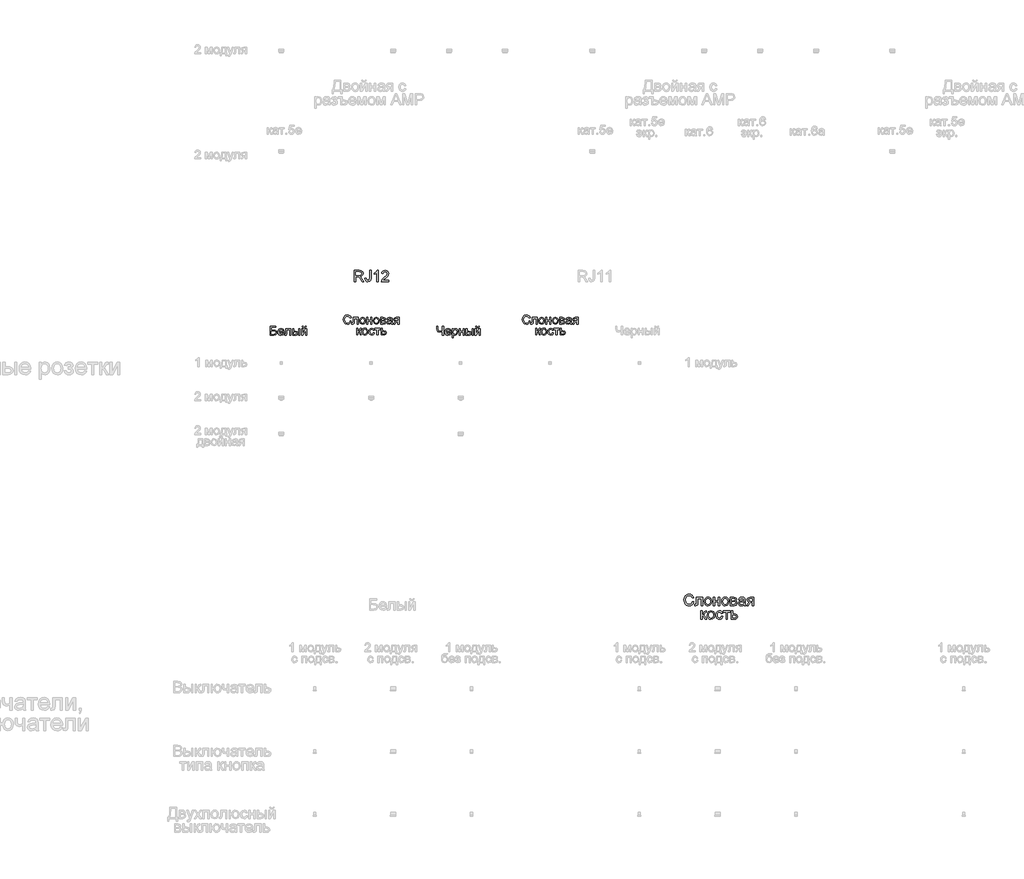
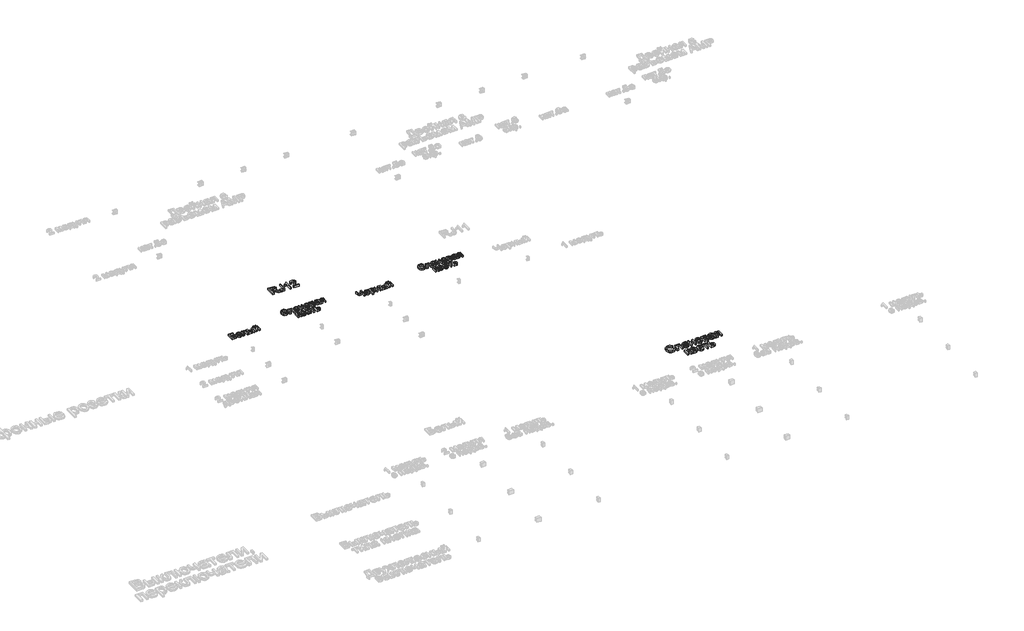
# One storey, part 22 of 47: 6 proxies.
"""IFC4 building model written with IfcOpenShell, lengths in millimetres."""

from ifc_helpers import new_model, si_unit, origin, origin_with_axes, place, context, project, spatial, polyline, outline, extrude, element, save

model = new_model("IFC4")

# Units and contexts
model_context = context("Model", 3, world=origin())
ifc_project = project(units=[si_unit("LENGTHUNIT", "METRE", prefix="MILLI")], contexts=[model_context])

# Site, building, storey
site = spatial("IfcSite", under=ifc_project)
building = spatial("IfcBuilding", under=site)
storey = spatial("IfcBuildingStorey", under=building, Name="Этаж 01", Elevation=0.0)

# Proxies
placement = place(None, origin())
element("IfcBuildingElementProxy", 1, Name="100 мм Arial", ObjectType="100 мм Arial", at=placement, inside=storey, context=model_context, shape_type="SweptSolid", body=[
    extrude(outline(polyline([(3679.840867, -27851.3823915), (3692.3979057, -27854.619753), (3686.6037643, -27869.2522594), (3677.5109477, -27879.942297), (3665.5670456, -27886.4813995), (3651.2196477, -27888.6611003), (3636.6545864, -27887.0117627), (3625.0877634, -27882.0637499), (3616.2218073, -27873.9887401), (3609.7593469, -27862.9584116), (3604.4986344, -27836.103026), (3605.9854908, -27821.4551912), (3610.4460599, -27808.8061819), (3617.64735, -27798.5576027), (3627.356369, -27791.1110579), (3638.8710754, -27786.5769124), (3651.4894279, -27785.0655305), (3665.2574115, -27787.0214364), (3676.6402936, -27792.8891543), (3685.2824548, -27802.3069333), (3690.8282759, -27814.913023), (3678.2712371, -27817.9051299), (3667.9705413, -27802.4663489), (3650.9989185, -27797.6225693), (3631.35402, -27802.9936464), (3620.2562465, -27817.4146206), (3617.0556731, -27836.0785005), (3620.8448577, -27857.7099618), (3632.641607, -27871.5300621), (3649.968849, -27876.1040616), (3660.4504201, -27874.5466945), (3669.1845518, -27869.8745931), (3675.7788366, -27862.1368085), (3679.840867, -27851.3823915)])), origin_with_axes(), (0.0, 0.0, 1.0), 20.0),
    extrude(outline(polyline([(3714.3727236, -27813.3188677), (3770.879398, -27813.3188677), (3770.879398, -27887.0178941), (3758.3223593, -27887.0178941), (3758.3223593, -27825.8759065), (3726.9297624, -27825.8759065), (3726.9297624, -27861.0699507), (3726.0836338, -27877.3058094), (3721.4360579, -27884.1606773), (3710.448649, -27887.0914705), (3700.246055, -27886.4538084), (3700.246055, -27874.5344317), (3705.8623868, -27874.5344317), (3711.5400322, -27873.7618795), (3713.8086379, -27871.3093329), (3714.3727236, -27860.3587122), (3714.3727236, -27813.3188677)])), origin_with_axes(), (0.0, 0.0, 1.0), 20.0),
    extrude(outline(polyline([(3786.5756965, -27850.2051691), (3789.2918919, -27832.4180746), (3797.4404781, -27819.9162182), (3807.508182, -27813.7909829), (3819.5624487, -27811.7492379), (3832.7540839, -27814.235507), (3843.2908374, -27821.6943145), (3850.1978219, -27833.537049), (3852.50015, -27849.1750995), (3848.4289226, -27871.5177994), (3836.5708596, -27884.1606773), (3819.5624487, -27888.6611003), (3806.211398, -27886.1840282), (3795.6869073, -27878.7528119), (3788.8534992, -27866.661757), (3786.5756965, -27850.2051691)]), holes=[polyline([(3799.1327353, -27850.1806436), (3800.5858692, -27861.5451316), (3804.9452708, -27869.6416012), (3811.505833, -27874.4884465), (3819.5624487, -27876.1040616), (3827.5822762, -27874.4792494), (3834.1305757, -27869.604813), (3838.4899774, -27861.4010445), (3839.9431113, -27849.7882362), (3838.4807803, -27838.754842), (3834.0937875, -27830.768737), (3827.536291, -27825.9218917), (3819.5624487, -27824.3062766), (3811.505833, -27825.9157604), (3804.9452708, -27830.7442116), (3800.5858692, -27838.822287), (3799.1327353, -27850.1806436)])]), origin_with_axes(), (0.0, 0.0, 1.0), 20.0),
    extrude(outline(polyline([(3866.6268187, -27813.3188677), (3879.1838574, -27813.3188677), (3879.1838574, -27841.572205), (3912.1460842, -27841.572205), (3912.1460842, -27813.3188677), (3924.703123, -27813.3188677), (3924.703123, -27887.0914705), (3912.1460842, -27887.0914705), (3912.1460842, -27854.1292437), (3879.1838574, -27854.1292437), (3879.1838574, -27887.0914705), (3866.6268187, -27887.0914705), (3866.6268187, -27813.3188677)])), origin_with_axes(), (0.0, 0.0, 1.0), 20.0),
    extrude(outline(polyline([(3940.3994214, -27850.2051691), (3943.1156168, -27832.4180746), (3951.264203, -27819.9162182), (3961.3319069, -27813.7909829), (3973.3861737, -27811.7492379), (3986.5778089, -27814.235507), (3997.1145623, -27821.6943145), (4004.0215468, -27833.537049), (4006.323875, -27849.1750995), (4002.2526475, -27871.5177994), (3990.3945846, -27884.1606773), (3973.3861737, -27888.6611003), (3960.0351229, -27886.1840282), (3949.5106322, -27878.7528119), (3942.6772241, -27866.661757), (3940.3994214, -27850.2051691)]), holes=[polyline([(3952.9564602, -27850.1806436), (3954.4095941, -27861.5451316), (3958.7689957, -27869.6416012), (3965.329558, -27874.4884465), (3973.3861737, -27876.1040616), (3981.4060011, -27874.4792494), (3987.9543007, -27869.604813), (3992.3137023, -27861.4010445), (3993.7668362, -27849.7882362), (3992.3045053, -27838.754842), (3987.9175125, -27830.768737), (3981.3600159, -27825.9218917), (3973.3861737, -27824.3062766), (3965.329558, -27825.9157604), (3958.7689957, -27830.7442116), (3954.4095941, -27838.822287), (3952.9564602, -27850.1806436)])]), origin_with_axes(), (0.0, 0.0, 1.0), 20.0),
    extrude(outline(polyline([(4020.4505436, -27813.3188677), (4048.1152696, -27813.3188677), (4063.2842705, -27814.9988622), (4071.8191328, -27821.1547542), (4075.3875882, -27831.8846457), (4073.2293471, -27840.603449), (4066.7300986, -27846.8206547), (4075.166859, -27853.6264717), (4078.5268479, -27865.4600092), (4076.3992637, -27875.0310724), (4071.3408862, -27881.7694443), (4063.3333215, -27885.7609639), (4052.3581753, -27887.0914705), (4020.4505436, -27887.0914705), (4020.4505436, -27813.3188677)]), holes=[polyline([(4033.0075823, -27841.572205), (4045.4174683, -27841.572205), (4055.6568505, -27840.9345428), (4060.6355202, -27838.3838943), (4062.8305494, -27833.7731067), (4058.9800512, -27827.6172146), (4045.8098758, -27825.8759065), (4033.0075823, -27825.8759065), (4033.0075823, -27841.572205)]), polyline([(4033.0075823, -27874.5344317), (4048.4095752, -27874.5344317), (4062.07026, -27872.2658261), (4065.9698091, -27864.4299396), (4063.8238308, -27858.3844121), (4058.2320245, -27854.8650077), (4047.1833019, -27854.1292437), (4033.0075823, -27854.1292437), (4033.0075823, -27874.5344317)])]), origin_with_axes(), (0.0, 0.0, 1.0), 20.0),
    extrude(outline(polyline([(4141.3120417, -27877.6736914), (4129.1351477, -27886.1840282), (4115.6829294, -27888.6611003), (4105.1890955, -27887.1711783), (4097.4482452, -27882.701412), (4092.6749763, -27875.9139892), (4091.0838866, -27867.4710974), (4093.4873823, -27857.5382835), (4099.8026899, -27850.3277964), (4108.5950696, -27846.2075181), (4119.4598512, -27844.3190572), (4141.2384653, -27840.0025751), (4141.3120417, -27837.2066719), (4137.853951, -27827.9360457), (4123.972537, -27824.3062766), (4111.2683454, -27826.7220351), (4105.2105553, -27835.2936856), (4092.6535165, -27833.7240557), (4098.0859073, -27821.4613225), (4109.0242653, -27814.2753609), (4125.5912178, -27811.7492379), (4140.8092697, -27813.9810553), (4149.4054456, -27819.5851244), (4153.2559438, -27828.1077239), (4153.8690805, -27839.0951328), (4153.8690805, -27854.7178549), (4154.5067426, -27876.5332572), (4157.0083402, -27887.0914705), (4144.4513014, -27887.0914705), (4141.3120417, -27877.6736914)]), holes=[polyline([(4141.3120417, -27852.5596139), (4121.0540065, -27856.4101121), (4110.2505386, -27858.4457258), (4105.3577081, -27861.7566638), (4103.6409254, -27866.5881806), (4107.381059, -27873.3817348), (4118.3562052, -27876.1040616), (4131.0603968, -27873.0996919), (4139.2519025, -27865.8278912), (4141.2384653, -27856.1158065), (4141.3120417, -27852.5596139)])]), origin_with_axes(), (0.0, 0.0, 1.0), 20.0),
    extrude(outline(polyline([(4227.6416833, -27813.3188677), (4227.6416833, -27887.0914705), (4215.0846445, -27887.0914705), (4215.0846445, -27858.8381333), (4208.2420394, -27858.8381333), (4198.9223622, -27860.4322886), (4190.1667707, -27871.1499174), (4180.1603804, -27887.0914705), (4165.6413043, -27887.0914705), (4178.247394, -27866.9315372), (4188.9404974, -27856.4836885), (4180.3565841, -27853.8533322), (4174.3233194, -27848.8562685), (4169.5653789, -27834.631498), (4171.1901911, -27826.035322), (4176.0646275, -27819.2295051), (4184.01701, -27814.7965271), (4194.8756602, -27813.3188677), (4227.6416833, -27813.3188677)]), holes=[polyline([(4215.0846445, -27825.8759065), (4198.5299547, -27825.8759065), (4185.1267873, -27828.7821743), (4182.1224177, -27835.5879912), (4186.5492644, -27843.6936578), (4202.2333001, -27846.2810945), (4215.0846445, -27846.2810945), (4215.0846445, -27825.8759065)])]), origin_with_axes(), (0.0, 0.0, 1.0), 20.0),
    extrude(outline(polyline([(3754.3982847, -27935.2936856), (3766.9553234, -27935.2936856), (3766.9553234, -27966.6862825), (3775.3675584, -27964.4299396), (3782.2592144, -27951.2842896), (3787.9859108, -27939.9412614), (3793.0381569, -27936.2501788), (3802.222944, -27935.2936856), (3804.6264397, -27935.2936856), (3804.6264397, -27947.9243007), (3801.2419254, -27947.8507243), (3795.1105588, -27949.1750995), (3790.7940767, -27957.4401817), (3785.7295679, -27966.3797142), (3778.6294454, -27970.7575099), (3786.551171, -27975.6442091), (3794.3257439, -27985.9387736), (3807.7656994, -28009.0662883), (3793.491878, -28009.0662883), (3780.3217026, -27986.4292829), (3773.6998267, -27976.8520883), (3766.9553234, -27974.5344317), (3766.9553234, -28009.0662883), (3754.3982847, -28009.0662883), (3754.3982847, -27935.2936856)])), origin_with_axes(), (0.0, 0.0, 1.0), 20.0),
    extrude(outline(polyline([(3812.474589, -27972.1799869), (3815.1907844, -27954.3928925), (3823.3393706, -27941.891036), (3833.4070745, -27935.7658008), (3845.4613412, -27933.7240557), (3858.6529764, -27936.2103249), (3869.1897299, -27943.6691323), (3876.0967143, -27955.5118669), (3878.3990425, -27971.1499174), (3874.3278151, -27993.4926172), (3862.4697521, -28006.1354951), (3845.4613412, -28010.6359182), (3832.1102905, -28008.1588461), (3821.5857997, -28000.7276298), (3814.7523917, -27988.6365749), (3812.474589, -27972.1799869)]), holes=[polyline([(3825.0316277, -27972.1554615), (3826.4847616, -27983.5199495), (3830.8441633, -27991.616419), (3837.4047255, -27996.4632643), (3845.4613412, -27998.0788794), (3853.4811687, -27996.4540673), (3860.0294682, -27991.5796308), (3864.3888698, -27983.3758623), (3865.8420037, -27971.763054), (3864.3796728, -27960.7296598), (3859.99268, -27952.7435549), (3853.4351834, -27947.8967096), (3845.4613412, -27946.2810945), (3837.4047255, -27947.8905782), (3830.8441633, -27952.7190294), (3826.4847616, -27960.7971049), (3825.0316277, -27972.1554615)])]), origin_with_axes(), (0.0, 0.0, 1.0), 20.0),
    extrude(outline(polyline([(3939.6146065, -27982.3825809), (3952.1716453, -27983.9522108), (3948.6706349, -27995.120495), (3942.0916786, -28003.5603211), (3933.0540442, -28008.8670189), (3922.1769999, -28010.6359182), (3908.8198178, -28008.1680431), (3898.3750348, -28000.764418), (3891.6335973, -27988.7500051), (3889.3864514, -27972.4497671), (3893.2246869, -27951.590858), (3904.9233344, -27938.1876906), (3922.0053217, -27933.7240557), (3932.6156515, -27935.2568974), (3941.0983972, -27939.8554223), (3947.1837785, -27947.2743759), (3950.6020154, -27957.2685034), (3938.0449767, -27958.8381333), (3932.2201784, -27949.4326169), (3922.1034235, -27946.2810945), (3913.9885598, -27947.8323302), (3907.5475593, -27952.4860375), (3903.3445075, -27960.4936022), (3901.9434902, -27972.1064106), (3903.3138506, -27983.8755687), (3907.4249319, -27991.9107246), (3913.7494366, -27996.5368407), (3921.760067, -27998.0788794), (3933.5936045, -27994.2283812), (3939.6146065, -27982.3825809)])), origin_with_axes(), (0.0, 0.0, 1.0), 20.0),
    extrude(outline(polyline([(3956.8805348, -27935.2936856), (4016.526469, -27935.2936856), (4016.526469, -27947.8507243), (3992.9820213, -27947.8507243), (3992.9820213, -28009.0662883), (3980.4249825, -28009.0662883), (3980.4249825, -27947.8507243), (3956.8805348, -27947.8507243), (3956.8805348, -27935.2936856)])), origin_with_axes(), (0.0, 0.0, 1.0), 20.0),
    extrude(outline(polyline([(4027.5138779, -27935.2936856), (4040.0709166, -27935.2936856), (4040.0709166, -27961.9773929), (4054.5409418, -27961.9773929), (4067.0857178, -27963.5500885), (4076.3686068, -27968.2681751), (4082.107566, -27975.751508), (4084.0205523, -27985.6199425), (4082.3926745, -27994.6054602), (4077.509041, -28002.186895), (4069.0446894, -28007.34644), (4056.6746574, -28009.0662883), (4027.5138779, -28009.0662883), (4027.5138779, -27935.2936856)]), holes=[polyline([(4040.0709166, -27996.5092496), (4051.7940896, -27996.5092496), (4066.938565, -27993.8727619), (4071.4635136, -27985.644468), (4068.1157874, -27977.9189461), (4053.290143, -27974.5344317), (4040.0709166, -27974.5344317), (4040.0709166, -27996.5092496)])]), origin_with_axes(), (0.0, 0.0, 1.0), 20.0),
])
element("IfcBuildingElementProxy", 2, Name="80 мм Arial", ObjectType="80 мм Arial", at=placement, inside=storey, context=model_context, shape_type="SweptSolid", body=[
    extrude(outline(polyline([(-92.4738634, -25390.5375901), (-42.2457083, -25390.5375901), (-42.2457083, -25400.5832211), (-82.4282324, -25400.5832211), (-82.4282324, -25424.4415948), (-63.6122946, -25424.4415948), (-47.0330794, -25426.4821136), (-37.1640317, -25434.1929202), (-33.4557812, -25447.3778109), (-36.0947214, -25458.8262986), (-43.9723012, -25467.527934), (-61.8072203, -25470.9026382), (-92.4738634, -25470.9026382), (-92.4738634, -25390.5375901)]), holes=[polyline([(-82.4282324, -25460.8570072), (-60.9046831, -25460.8570072), (-47.857135, -25457.5411642), (-43.5014122, -25447.593635), (-45.9931996, -25439.7258654), (-52.9290015, -25435.5271056), (-68.0661193, -25434.4872258), (-82.4282324, -25434.4872258), (-82.4282324, -25460.8570072)])]), origin_with_axes(), (0.0, 0.0, 1.0), 20.0),
    extrude(outline(polyline([(20.4217633, -25453.3227839), (30.2711906, -25454.5784878), (21.0594254, -25467.5475544), (3.9014091, -25472.1583421), (-7.88553, -25470.1693268), (-16.9550474, -25464.2022808), (-22.7381524, -25454.6447066), (-24.6658541, -25441.8841064), (-22.718532, -25428.6943106), (-16.8765659, -25418.8301681), (-7.9296758, -25412.6791811), (3.3324183, -25410.6288521), (14.2437983, -25412.674276), (22.9626016, -25418.8105477), (28.6794878, -25428.6550699), (30.5851165, -25441.8252453), (30.5262554, -25444.5328568), (-14.620223, -25444.5328568), (-8.8420232, -25457.5804049), (4.0976129, -25462.1127111), (13.9470402, -25460.0133312), (20.4217633, -25453.3227839)]), holes=[polyline([(-14.620223, -25434.4872258), (20.5394855, -25434.4872258), (16.517309, -25425.3833727), (3.2931776, -25420.6744831), (-9.0774676, -25424.4317846), (-14.620223, -25434.4872258)])]), origin_with_axes(), (0.0, 0.0, 1.0), 20.0),
    extrude(outline(polyline([(45.6535631, -25411.884556), (90.8589026, -25411.884556), (90.8589026, -25470.8437771), (80.8132716, -25470.8437771), (80.8132716, -25421.930187), (55.6991941, -25421.930187), (55.6991941, -25450.0854224), (55.0222912, -25463.0741094), (51.3042305, -25468.5580036), (42.5143034, -25470.9026382), (34.3522282, -25470.3925085), (34.3522282, -25460.8570072), (38.8452936, -25460.8570072), (43.38741, -25460.2389655), (45.2022945, -25458.2769281), (45.6535631, -25449.5164316), (45.6535631, -25411.884556)])), origin_with_axes(), (0.0, 0.0, 1.0), 20.0),
    extrude(outline(polyline([(105.9273491, -25411.884556), (115.9729802, -25411.884556), (115.9729802, -25433.2315219), (128.3926763, -25433.2315219), (147.0810817, -25438.2641476), (152.0033428, -25444.2508139), (153.6440965, -25452.1455616), (148.1405818, -25465.3991236), (140.9914084, -25469.5267596), (130.5509174, -25470.9026382), (105.9273491, -25470.9026382), (105.9273491, -25411.884556)]), holes=[polyline([(115.9729802, -25460.8570072), (126.2932964, -25460.8570072), (139.6155297, -25458.7478171), (143.5984654, -25452.1651819), (140.6455993, -25445.9847644), (127.6078614, -25443.2771529), (115.9729802, -25443.2771529), (115.9729802, -25460.8570072)])]), origin_with_axes(), (0.0, 0.0, 1.0), 20.0),
    extrude(outline(polyline([(161.1783197, -25411.884556), (171.2239507, -25411.884556), (171.2239507, -25470.9026382), (161.1783197, -25470.9026382), (161.1783197, -25411.884556)])), origin_with_axes(), (0.0, 0.0, 1.0), 20.0),
    extrude(outline(polyline([(186.2923973, -25411.884556), (196.3380283, -25411.884556), (196.3380283, -25456.8936918), (221.0204576, -25411.884556), (234.0091446, -25411.884556), (234.0091446, -25470.9026382), (223.9635136, -25470.9026382), (223.9635136, -25426.1681876), (199.4380472, -25470.9026382), (186.2923973, -25470.9026382), (186.2923973, -25411.884556)])), origin_with_axes(), (0.0, 0.0, 1.0), 20.0),
    extrude(outline(polyline([(218.9406981, -25390.5375901), (226.4749213, -25390.5375901), (221.5992586, -25401.7113926), (210.7786229, -25405.6060366), (199.0652601, -25401.7408231), (193.8266205, -25390.5375901), (201.3608438, -25390.5375901), (204.1861775, -25396.1980677), (209.8760857, -25398.0718134), (216.1153643, -25396.2569288), (218.9406981, -25390.5375901)])), origin_with_axes(), (0.0, 0.0, 1.0), 20.0),
])
element("IfcBuildingElementProxy", 3, Name="80 мм Arial", ObjectType="80 мм Arial", at=placement, inside=storey, context=model_context, shape_type="SweptSolid", body=[
    extrude(outline(polyline([(619.9006513, -25342.335375), (629.9462823, -25344.9252643), (625.3109692, -25356.6312694), (618.0367159, -25365.1832995), (608.4815942, -25370.4145814), (597.0036759, -25372.1583421), (576.0981684, -25366.8804617), (563.8354352, -25351.5961911), (559.6268652, -25330.1118826), (564.3848057, -25308.2744074), (577.9130529, -25294.1183082), (597.2195, -25289.2818862), (608.233887, -25290.846611), (617.3401926, -25295.5407852), (624.2539216, -25303.0750085), (628.6905784, -25313.1598803), (618.6449474, -25315.5535658), (610.4043907, -25303.2025409), (596.8270926, -25299.3275172), (581.1111737, -25303.6243789), (572.2329549, -25315.1611583), (569.6724962, -25330.0922622), (572.7038439, -25347.3974313), (582.1412433, -25358.4535115), (596.0030369, -25362.1127111), (611.3755992, -25357.1291363), (619.9006513, -25342.335375)])), origin_with_axes(), (0.0, 0.0, 1.0), 20.0),
    extrude(outline(polyline([(647.5261366, -25311.884556), (692.7314762, -25311.884556), (692.7314762, -25370.8437771), (682.6858451, -25370.8437771), (682.6858451, -25321.930187), (657.5717676, -25321.930187), (657.5717676, -25350.0854224), (656.8948647, -25363.0741094), (653.176804, -25368.5580036), (644.3868769, -25370.9026382), (636.2248017, -25370.3925085), (636.2248017, -25360.8570072), (640.7178671, -25360.8570072), (645.2599835, -25360.2389655), (647.074868, -25358.2769281), (647.5261366, -25349.5164316), (647.5261366, -25311.884556)])), origin_with_axes(), (0.0, 0.0, 1.0), 20.0),
    extrude(outline(polyline([(705.2885149, -25341.3935971), (707.4614713, -25327.1639215), (713.9803402, -25317.1624364), (722.0345034, -25312.2622482), (731.6779167, -25310.6288521), (742.2312249, -25312.6178674), (750.6606277, -25318.5849134), (756.1862152, -25328.0591011), (758.0280778, -25340.5695414), (754.7710958, -25358.4437013), (745.2846454, -25368.5580036), (731.6779167, -25372.1583421), (720.9970761, -25370.1766844), (712.5774835, -25364.2317114), (707.1107571, -25354.5588674), (705.2885149, -25341.3935971)]), holes=[polyline([(715.3341459, -25341.3739767), (719.9841744, -25356.9427428), (731.6779167, -25362.1127111), (743.3324183, -25356.9133122), (747.9824467, -25341.0600508), (743.3029878, -25325.8444514), (731.6779167, -25320.6744831), (719.9841744, -25325.8248311), (715.3341459, -25341.3739767)])]), origin_with_axes(), (0.0, 0.0, 1.0), 20.0),
    extrude(outline(polyline([(769.3294127, -25311.884556), (779.3750437, -25311.884556), (779.3750437, -25334.4872258), (805.7448251, -25334.4872258), (805.7448251, -25311.884556), (815.7904561, -25311.884556), (815.7904561, -25370.9026382), (805.7448251, -25370.9026382), (805.7448251, -25344.5328568), (779.3750437, -25344.5328568), (779.3750437, -25370.9026382), (769.3294127, -25370.9026382), (769.3294127, -25311.884556)])), origin_with_axes(), (0.0, 0.0, 1.0), 20.0),
    extrude(outline(polyline([(828.3474949, -25341.3935971), (830.5204512, -25327.1639215), (837.0393201, -25317.1624364), (845.0934833, -25312.2622482), (854.7368967, -25310.6288521), (865.2902048, -25312.6178674), (873.7196076, -25318.5849134), (879.2451952, -25328.0591011), (881.0870577, -25340.5695414), (877.8300758, -25358.4437013), (868.3436254, -25368.5580036), (854.7368967, -25372.1583421), (844.0560561, -25370.1766844), (835.6364635, -25364.2317114), (830.169737, -25354.5588674), (828.3474949, -25341.3935971)]), holes=[polyline([(838.3931259, -25341.3739767), (843.0431543, -25356.9427428), (854.7368967, -25362.1127111), (866.3913983, -25356.9133122), (871.0414267, -25341.0600508), (866.3619677, -25325.8444514), (854.7368967, -25320.6744831), (843.0431543, -25325.8248311), (838.3931259, -25341.3739767)])]), origin_with_axes(), (0.0, 0.0, 1.0), 20.0),
    extrude(outline(polyline([(892.3883926, -25311.884556), (914.5201734, -25311.884556), (926.6553742, -25313.2285516), (933.483264, -25318.1532652), (936.3380283, -25326.7371784), (934.6114354, -25333.7122211), (929.4120366, -25338.6859856), (936.1614449, -25344.1306392), (938.849436, -25353.5974692), (933.1006667, -25366.6450173), (917.914498, -25370.9026382), (892.3883926, -25370.9026382), (892.3883926, -25311.884556)]), holes=[polyline([(902.4340236, -25360.8570072), (914.7556179, -25360.8570072), (925.6841657, -25359.0421227), (928.803805, -25352.7734135), (927.0870224, -25347.9369915), (922.6135773, -25345.121468), (913.7745992, -25344.5328568), (902.4340236, -25344.5328568), (902.4340236, -25360.8570072)]), polyline([(902.4340236, -25334.4872258), (912.3619324, -25334.4872258), (920.5534381, -25333.9770961), (924.5363739, -25331.9365773), (926.2923973, -25328.2479471), (923.2119987, -25323.3232335), (912.6758583, -25321.930187), (902.4340236, -25321.930187), (902.4340236, -25334.4872258)])]), origin_with_axes(), (0.0, 0.0, 1.0), 20.0),
    extrude(outline(polyline([(989.0775911, -25363.368415), (979.3360759, -25370.1766844), (968.5743012, -25372.1583421), (953.9865539, -25367.3905914), (948.895067, -25355.2063398), (950.8178636, -25347.2600887), (955.8701097, -25341.491699), (962.9040134, -25338.1954763), (971.5958387, -25336.6847076), (989.01873, -25333.2315219), (989.0775911, -25330.9947994), (986.3111185, -25323.5782984), (975.2059873, -25320.6744831), (965.0426341, -25322.6070899), (960.1964019, -25329.4644103), (950.1507709, -25328.2087064), (954.4966836, -25318.3985199), (963.24737, -25312.6497506), (976.500932, -25310.6288521), (988.6753735, -25312.4143061), (995.5523142, -25316.8975613), (998.6327128, -25323.715641), (999.1232221, -25332.5055681), (999.1232221, -25345.0037458), (999.6333518, -25362.4560676), (1001.6346299, -25370.9026382), (991.5889989, -25370.9026382), (989.0775911, -25363.368415)]), holes=[polyline([(989.0775911, -25343.2771529), (972.8711629, -25346.3575515), (964.2283886, -25347.9860425), (960.3141242, -25350.6347928), (958.9406981, -25354.5000063), (961.932805, -25359.9348497), (970.7129219, -25362.1127111), (980.8762752, -25359.7092154), (987.4294798, -25353.8917748), (989.01873, -25346.122107), (989.0775911, -25343.2771529)])]), origin_with_axes(), (0.0, 0.0, 1.0), 20.0),
    extrude(outline(polyline([(1058.1413043, -25311.884556), (1058.1413043, -25370.9026382), (1048.0956733, -25370.9026382), (1048.0956733, -25348.2999684), (1042.6215892, -25348.2999684), (1035.1658475, -25349.5752927), (1028.1613743, -25358.1493957), (1020.1562621, -25370.9026382), (1008.5410012, -25370.9026382), (1018.625873, -25354.7746915), (1027.1803556, -25346.4164126), (1015.4866133, -25340.3144766), (1011.6802609, -25328.9346602), (1016.8796598, -25316.6130659), (1031.9284859, -25311.884556), (1058.1413043, -25311.884556)]), holes=[polyline([(1048.0956733, -25321.930187), (1034.8519215, -25321.930187), (1024.1293876, -25324.2552012), (1021.7258919, -25329.6998548), (1025.2673692, -25336.1843881), (1037.8145978, -25338.2543374), (1048.0956733, -25338.2543374), (1048.0956733, -25321.930187)])]), origin_with_axes(), (0.0, 0.0, 1.0), 20.0),
    extrude(outline(polyline([(679.5465855, -25409.4644103), (689.5922165, -25409.4644103), (689.5922165, -25434.5784878), (696.3220044, -25432.7734135), (701.8353293, -25422.2568935), (706.4166864, -25413.182471), (710.4584832, -25410.2296048), (717.806313, -25409.4644103), (719.7291095, -25409.4644103), (719.7291095, -25419.5689024), (717.021498, -25419.5100413), (712.1164048, -25420.5695414), (708.6632191, -25427.1816072), (704.6116121, -25434.3332332), (698.9315141, -25437.8354697), (705.2688946, -25441.7448291), (711.4885528, -25449.9804807), (722.2405173, -25468.4824925), (710.8214601, -25468.4824925), (700.2853198, -25450.3728881), (694.9878191, -25442.7111325), (689.5922165, -25440.8570072), (689.5922165, -25468.4824925), (679.5465855, -25468.4824925), (679.5465855, -25409.4644103)])), origin_with_axes(), (0.0, 0.0, 1.0), 20.0),
    extrude(outline(polyline([(726.0076289, -25438.9734514), (728.1805852, -25424.7437758), (734.6994542, -25414.7422906), (742.7536173, -25409.8421025), (752.3970307, -25408.2087064), (762.9503389, -25410.1977217), (771.3797416, -25416.1647677), (776.9053292, -25425.6389553), (778.7471917, -25438.1493957), (775.4902098, -25456.0235556), (766.0037594, -25466.1378579), (752.3970307, -25469.7381964), (741.7161901, -25467.7565387), (733.2965975, -25461.8115656), (727.8298711, -25452.1387217), (726.0076289, -25438.9734514)]), holes=[polyline([(736.0532599, -25438.953831), (740.7032883, -25454.522597), (752.3970307, -25459.6925654), (764.0515323, -25454.4931665), (768.7015607, -25438.639905), (764.0221017, -25423.4243057), (752.3970307, -25418.2543374), (740.7032883, -25423.4046854), (736.0532599, -25438.953831)])]), origin_with_axes(), (0.0, 0.0, 1.0), 20.0),
    extrude(outline(polyline([(827.7196429, -25447.1355266), (837.7652739, -25448.3912305), (834.9644657, -25457.3258579), (829.7013006, -25464.0777187), (813.7695577, -25469.7381964), (803.083812, -25467.7638963), (794.7279856, -25461.8409962), (789.3348356, -25452.2294659), (787.5371189, -25439.1892755), (790.6077073, -25422.5021482), (799.9666252, -25411.7796143), (813.6322151, -25408.2087064), (828.9066755, -25413.1137997), (836.5095701, -25427.0442646), (826.4639391, -25428.2999684), (821.8041004, -25420.7755554), (813.7106966, -25418.2543374), (802.0660051, -25423.2182918), (797.5827499, -25438.9145903), (801.9679033, -25454.7580415), (813.4360113, -25459.6925654), (822.9028413, -25456.6121668), (827.7196429, -25447.1355266)])), origin_with_axes(), (0.0, 0.0, 1.0), 20.0),
    extrude(outline(polyline([(841.5323856, -25409.4644103), (889.2491329, -25409.4644103), (889.2491329, -25419.5100413), (870.4135747, -25419.5100413), (870.4135747, -25468.4824925), (860.3679437, -25468.4824925), (860.3679437, -25419.5100413), (841.5323856, -25419.5100413), (841.5323856, -25409.4644103)])), origin_with_axes(), (0.0, 0.0, 1.0), 20.0),
    extrude(outline(polyline([(898.03906, -25409.4644103), (908.084691, -25409.4644103), (908.084691, -25430.8113762), (919.6607112, -25430.8113762), (937.1228432, -25435.8440019), (941.7140105, -25441.8306682), (943.2443996, -25449.7254158), (938.0351905, -25462.9789778), (931.2637093, -25467.1066138), (921.3676836, -25468.4824925), (898.03906, -25468.4824925), (898.03906, -25409.4644103)]), holes=[polyline([(908.084691, -25458.4368615), (917.4632294, -25458.4368615), (929.5788098, -25456.3276714), (933.1987686, -25449.7450362), (930.5205877, -25443.5646187), (918.6600721, -25440.8570072), (908.084691, -25440.8570072), (908.084691, -25458.4368615)])]), origin_with_axes(), (0.0, 0.0, 1.0), 20.0),
])
element("IfcBuildingElementProxy", 4, Name="80 мм Arial", ObjectType="80 мм Arial", at=placement, inside=storey, context=model_context, shape_type="SweptSolid", body=[
    extrude(outline(polyline([(1455.5237699, -25470.9026382), (1445.4781389, -25470.9026382), (1445.4781389, -25438.7252264), (1420.5995059, -25444.5328568), (1405.9136566, -25440.5597313), (1397.3984147, -25430.4748595), (1395.2499839, -25414.4744453), (1395.2499839, -25390.5375901), (1405.2956149, -25390.5375901), (1405.2956149, -25413.1206395), (1406.5022678, -25423.9829686), (1410.1222267, -25430.3571373), (1421.7178671, -25434.4872258), (1445.4781389, -25429.503651), (1445.4781389, -25390.5375901), (1455.5237699, -25390.5375901), (1455.5237699, -25470.9026382)])), origin_with_axes(), (0.0, 0.0, 1.0), 20.0),
    extrude(outline(polyline([(1513.168426, -25453.3227839), (1523.0178533, -25454.5784878), (1513.8060882, -25467.5475544), (1496.6480719, -25472.1583421), (1484.8611328, -25470.1693268), (1475.7916153, -25464.2022808), (1470.0085104, -25454.6447066), (1468.0808087, -25441.8841064), (1470.0281307, -25428.6943106), (1475.8700968, -25418.8301681), (1484.816987, -25412.6791811), (1496.0790811, -25410.6288521), (1506.9904611, -25412.674276), (1515.7092644, -25418.8105477), (1521.4261506, -25428.6550699), (1523.3317793, -25441.8252453), (1523.2729182, -25444.5328568), (1478.1264397, -25444.5328568), (1483.9046396, -25457.5804049), (1496.8442756, -25462.1127111), (1506.6937029, -25460.0133312), (1513.168426, -25453.3227839)]), holes=[polyline([(1478.1264397, -25434.4872258), (1513.2861483, -25434.4872258), (1509.2639718, -25425.3833727), (1496.0398404, -25420.6744831), (1483.6691951, -25424.4317846), (1478.1264397, -25434.4872258)])]), origin_with_axes(), (0.0, 0.0, 1.0), 20.0),
    extrude(outline(polyline([(1533.3774103, -25493.505308), (1533.3774103, -25411.884556), (1543.4230413, -25411.884556), (1543.4230413, -25421.7339833), (1550.3686534, -25413.4051349), (1559.7471917, -25410.6288521), (1572.4808139, -25414.513686), (1580.799852, -25425.4618542), (1583.6055654, -25440.9423285), (1580.4368751, -25457.217428), (1571.2349202, -25468.3029388), (1558.5307286, -25472.1583421), (1549.7898524, -25469.578263), (1543.4230413, -25463.054489), (1543.4230413, -25493.505308), (1533.3774103, -25493.505308)]), holes=[polyline([(1543.4230413, -25441.8644861), (1547.768954, -25457.1683771), (1558.3149045, -25462.1127111), (1569.0766791, -25456.9917937), (1573.5599344, -25441.1189119), (1569.1845912, -25425.7757801), (1558.7269323, -25420.6744831), (1548.0632596, -25426.0995163), (1543.4230413, -25441.8644861)])]), origin_with_axes(), (0.0, 0.0, 1.0), 20.0),
    extrude(outline(polyline([(1594.9069003, -25411.884556), (1604.9525313, -25411.884556), (1604.9525313, -25434.4872258), (1631.3223127, -25434.4872258), (1631.3223127, -25411.884556), (1641.3679437, -25411.884556), (1641.3679437, -25470.9026382), (1631.3223127, -25470.9026382), (1631.3223127, -25444.5328568), (1604.9525313, -25444.5328568), (1604.9525313, -25470.9026382), (1594.9069003, -25470.9026382), (1594.9069003, -25411.884556)])), origin_with_axes(), (0.0, 0.0, 1.0), 20.0),
    extrude(outline(polyline([(1711.6873608, -25411.884556), (1721.7329918, -25411.884556), (1721.7329918, -25470.9026382), (1711.6873608, -25470.9026382), (1711.6873608, -25411.884556)])), origin_with_axes(), (0.0, 0.0, 1.0), 20.0),
    extrude(outline(polyline([(1656.4363902, -25411.884556), (1666.4820213, -25411.884556), (1666.4820213, -25433.2315219), (1678.9017174, -25433.2315219), (1697.5901228, -25438.2641476), (1702.5123839, -25444.2508139), (1704.1531376, -25452.1455616), (1698.6496229, -25465.3991236), (1691.5004495, -25469.5267596), (1681.0599585, -25470.9026382), (1656.4363902, -25470.9026382), (1656.4363902, -25411.884556)]), holes=[polyline([(1666.4820213, -25460.8570072), (1676.8023375, -25460.8570072), (1690.1245708, -25458.7478171), (1694.1075066, -25452.1651819), (1691.1546404, -25445.9847644), (1678.1169025, -25443.2771529), (1666.4820213, -25443.2771529), (1666.4820213, -25460.8570072)])]), origin_with_axes(), (0.0, 0.0, 1.0), 20.0),
    extrude(outline(polyline([(1736.8014384, -25411.884556), (1746.8470694, -25411.884556), (1746.8470694, -25456.8936918), (1771.5294987, -25411.884556), (1784.5181857, -25411.884556), (1784.5181857, -25470.9026382), (1774.4725547, -25470.9026382), (1774.4725547, -25426.1681876), (1749.9470883, -25470.9026382), (1736.8014384, -25470.9026382), (1736.8014384, -25411.884556)])), origin_with_axes(), (0.0, 0.0, 1.0), 20.0),
    extrude(outline(polyline([(1769.4497392, -25390.5375901), (1776.9839624, -25390.5375901), (1772.1082997, -25401.7113926), (1761.287664, -25405.6060366), (1749.5743012, -25401.7408231), (1744.3356616, -25390.5375901), (1751.8698849, -25390.5375901), (1754.6952186, -25396.1980677), (1760.3851268, -25398.0718134), (1766.6244054, -25396.2569288), (1769.4497392, -25390.5375901)])), origin_with_axes(), (0.0, 0.0, 1.0), 20.0),
])
element("IfcBuildingElementProxy", 5, Name="80 мм Arial", ObjectType="80 мм Arial", at=placement, inside=storey, context=model_context, shape_type="SweptSolid", body=[
    extrude(outline(polyline([(2219.9006513, -25342.335375), (2229.9462823, -25344.9252643), (2225.3109692, -25356.6312694), (2218.0367159, -25365.1832995), (2208.4815942, -25370.4145814), (2197.0036759, -25372.1583421), (2176.0981684, -25366.8804617), (2163.8354352, -25351.5961911), (2159.6268652, -25330.1118826), (2164.3848057, -25308.2744074), (2177.9130529, -25294.1183082), (2197.2195, -25289.2818862), (2208.233887, -25290.846611), (2217.3401926, -25295.5407852), (2224.2539216, -25303.0750085), (2228.6905784, -25313.1598803), (2218.6449474, -25315.5535658), (2210.4043907, -25303.2025409), (2196.8270926, -25299.3275172), (2181.1111737, -25303.6243789), (2172.2329549, -25315.1611583), (2169.6724962, -25330.0922622), (2172.7038439, -25347.3974313), (2182.1412433, -25358.4535115), (2196.0030369, -25362.1127111), (2211.3755992, -25357.1291363), (2219.9006513, -25342.335375)])), origin_with_axes(), (0.0, 0.0, 1.0), 20.0),
    extrude(outline(polyline([(2247.5261366, -25311.884556), (2292.7314762, -25311.884556), (2292.7314762, -25370.8437771), (2282.6858451, -25370.8437771), (2282.6858451, -25321.930187), (2257.5717676, -25321.930187), (2257.5717676, -25350.0854224), (2256.8948647, -25363.0741094), (2253.176804, -25368.5580036), (2244.3868769, -25370.9026382), (2236.2248017, -25370.3925085), (2236.2248017, -25360.8570072), (2240.7178671, -25360.8570072), (2245.2599835, -25360.2389655), (2247.074868, -25358.2769281), (2247.5261366, -25349.5164316), (2247.5261366, -25311.884556)])), origin_with_axes(), (0.0, 0.0, 1.0), 20.0),
    extrude(outline(polyline([(2305.2885149, -25341.3935971), (2307.4614713, -25327.1639215), (2313.9803402, -25317.1624364), (2322.0345034, -25312.2622482), (2331.6779167, -25310.6288521), (2342.2312249, -25312.6178674), (2350.6606277, -25318.5849134), (2356.1862152, -25328.0591011), (2358.0280778, -25340.5695414), (2354.7710958, -25358.4437013), (2345.2846454, -25368.5580036), (2331.6779167, -25372.1583421), (2320.9970761, -25370.1766844), (2312.5774835, -25364.2317114), (2307.1107571, -25354.5588674), (2305.2885149, -25341.3935971)]), holes=[polyline([(2315.3341459, -25341.3739767), (2319.9841744, -25356.9427428), (2331.6779167, -25362.1127111), (2343.3324183, -25356.9133122), (2347.9824467, -25341.0600508), (2343.3029878, -25325.8444514), (2331.6779167, -25320.6744831), (2319.9841744, -25325.8248311), (2315.3341459, -25341.3739767)])]), origin_with_axes(), (0.0, 0.0, 1.0), 20.0),
    extrude(outline(polyline([(2369.3294127, -25311.884556), (2379.3750437, -25311.884556), (2379.3750437, -25334.4872258), (2405.7448251, -25334.4872258), (2405.7448251, -25311.884556), (2415.7904561, -25311.884556), (2415.7904561, -25370.9026382), (2405.7448251, -25370.9026382), (2405.7448251, -25344.5328568), (2379.3750437, -25344.5328568), (2379.3750437, -25370.9026382), (2369.3294127, -25370.9026382), (2369.3294127, -25311.884556)])), origin_with_axes(), (0.0, 0.0, 1.0), 20.0),
    extrude(outline(polyline([(2428.3474949, -25341.3935971), (2430.5204512, -25327.1639215), (2437.0393201, -25317.1624364), (2445.0934833, -25312.2622482), (2454.7368967, -25310.6288521), (2465.2902048, -25312.6178674), (2473.7196076, -25318.5849134), (2479.2451952, -25328.0591011), (2481.0870577, -25340.5695414), (2477.8300758, -25358.4437013), (2468.3436254, -25368.5580036), (2454.7368967, -25372.1583421), (2444.0560561, -25370.1766844), (2435.6364635, -25364.2317114), (2430.169737, -25354.5588674), (2428.3474949, -25341.3935971)]), holes=[polyline([(2438.3931259, -25341.3739767), (2443.0431543, -25356.9427428), (2454.7368967, -25362.1127111), (2466.3913983, -25356.9133122), (2471.0414267, -25341.0600508), (2466.3619677, -25325.8444514), (2454.7368967, -25320.6744831), (2443.0431543, -25325.8248311), (2438.3931259, -25341.3739767)])]), origin_with_axes(), (0.0, 0.0, 1.0), 20.0),
    extrude(outline(polyline([(2492.3883926, -25311.884556), (2514.5201734, -25311.884556), (2526.6553742, -25313.2285516), (2533.483264, -25318.1532652), (2536.3380283, -25326.7371784), (2534.6114354, -25333.7122211), (2529.4120366, -25338.6859856), (2536.1614449, -25344.1306392), (2538.849436, -25353.5974692), (2533.1006667, -25366.6450173), (2517.914498, -25370.9026382), (2492.3883926, -25370.9026382), (2492.3883926, -25311.884556)]), holes=[polyline([(2502.4340236, -25360.8570072), (2514.7556179, -25360.8570072), (2525.6841657, -25359.0421227), (2528.803805, -25352.7734135), (2527.0870224, -25347.9369915), (2522.6135773, -25345.121468), (2513.7745992, -25344.5328568), (2502.4340236, -25344.5328568), (2502.4340236, -25360.8570072)]), polyline([(2502.4340236, -25334.4872258), (2512.3619324, -25334.4872258), (2520.5534381, -25333.9770961), (2524.5363739, -25331.9365773), (2526.2923973, -25328.2479471), (2523.2119987, -25323.3232335), (2512.6758583, -25321.930187), (2502.4340236, -25321.930187), (2502.4340236, -25334.4872258)])]), origin_with_axes(), (0.0, 0.0, 1.0), 20.0),
    extrude(outline(polyline([(2589.0775911, -25363.368415), (2579.3360759, -25370.1766844), (2568.5743012, -25372.1583421), (2553.9865539, -25367.3905914), (2548.895067, -25355.2063398), (2550.8178636, -25347.2600887), (2555.8701097, -25341.491699), (2562.9040134, -25338.1954763), (2571.5958387, -25336.6847076), (2589.01873, -25333.2315219), (2589.0775911, -25330.9947994), (2586.3111185, -25323.5782984), (2575.2059873, -25320.6744831), (2565.0426341, -25322.6070899), (2560.1964019, -25329.4644103), (2550.1507709, -25328.2087064), (2554.4966836, -25318.3985199), (2563.24737, -25312.6497506), (2576.500932, -25310.6288521), (2588.6753735, -25312.4143061), (2595.5523142, -25316.8975613), (2598.6327128, -25323.715641), (2599.1232221, -25332.5055681), (2599.1232221, -25345.0037458), (2599.6333518, -25362.4560676), (2601.6346299, -25370.9026382), (2591.5889989, -25370.9026382), (2589.0775911, -25363.368415)]), holes=[polyline([(2589.0775911, -25343.2771529), (2572.8711629, -25346.3575515), (2564.2283886, -25347.9860425), (2560.3141242, -25350.6347928), (2558.9406981, -25354.5000063), (2561.932805, -25359.9348497), (2570.7129219, -25362.1127111), (2580.8762752, -25359.7092154), (2587.4294798, -25353.8917748), (2589.01873, -25346.122107), (2589.0775911, -25343.2771529)])]), origin_with_axes(), (0.0, 0.0, 1.0), 20.0),
    extrude(outline(polyline([(2658.1413043, -25311.884556), (2658.1413043, -25370.9026382), (2648.0956733, -25370.9026382), (2648.0956733, -25348.2999684), (2642.6215892, -25348.2999684), (2635.1658475, -25349.5752927), (2628.1613743, -25358.1493957), (2620.1562621, -25370.9026382), (2608.5410012, -25370.9026382), (2618.625873, -25354.7746915), (2627.1803556, -25346.4164126), (2615.4866133, -25340.3144766), (2611.6802609, -25328.9346602), (2616.8796598, -25316.6130659), (2631.9284859, -25311.884556), (2658.1413043, -25311.884556)]), holes=[polyline([(2648.0956733, -25321.930187), (2634.8519215, -25321.930187), (2624.1293876, -25324.2552012), (2621.7258919, -25329.6998548), (2625.2673692, -25336.1843881), (2637.8145978, -25338.2543374), (2648.0956733, -25338.2543374), (2648.0956733, -25321.930187)])]), origin_with_axes(), (0.0, 0.0, 1.0), 20.0),
    extrude(outline(polyline([(2279.5465855, -25409.4644103), (2289.5922165, -25409.4644103), (2289.5922165, -25434.5784878), (2296.3220044, -25432.7734135), (2301.8353293, -25422.2568935), (2306.4166864, -25413.182471), (2310.4584832, -25410.2296048), (2317.806313, -25409.4644103), (2319.7291095, -25409.4644103), (2319.7291095, -25419.5689024), (2317.021498, -25419.5100413), (2312.1164048, -25420.5695414), (2308.6632191, -25427.1816072), (2304.6116121, -25434.3332332), (2298.9315141, -25437.8354697), (2305.2688946, -25441.7448291), (2311.4885528, -25449.9804807), (2322.2405173, -25468.4824925), (2310.8214601, -25468.4824925), (2300.2853198, -25450.3728881), (2294.9878191, -25442.7111325), (2289.5922165, -25440.8570072), (2289.5922165, -25468.4824925), (2279.5465855, -25468.4824925), (2279.5465855, -25409.4644103)])), origin_with_axes(), (0.0, 0.0, 1.0), 20.0),
    extrude(outline(polyline([(2326.0076289, -25438.9734514), (2328.1805852, -25424.7437758), (2334.6994542, -25414.7422906), (2342.7536173, -25409.8421025), (2352.3970307, -25408.2087064), (2362.9503389, -25410.1977217), (2371.3797416, -25416.1647677), (2376.9053292, -25425.6389553), (2378.7471917, -25438.1493957), (2375.4902098, -25456.0235556), (2366.0037594, -25466.1378579), (2352.3970307, -25469.7381964), (2341.7161901, -25467.7565387), (2333.2965975, -25461.8115656), (2327.8298711, -25452.1387217), (2326.0076289, -25438.9734514)]), holes=[polyline([(2336.0532599, -25438.953831), (2340.7032883, -25454.522597), (2352.3970307, -25459.6925654), (2364.0515323, -25454.4931665), (2368.7015607, -25438.639905), (2364.0221017, -25423.4243057), (2352.3970307, -25418.2543374), (2340.7032883, -25423.4046854), (2336.0532599, -25438.953831)])]), origin_with_axes(), (0.0, 0.0, 1.0), 20.0),
    extrude(outline(polyline([(2427.7196429, -25447.1355266), (2437.7652739, -25448.3912305), (2434.9644657, -25457.3258579), (2429.7013006, -25464.0777187), (2413.7695577, -25469.7381964), (2403.083812, -25467.7638963), (2394.7279856, -25461.8409962), (2389.3348356, -25452.2294659), (2387.5371189, -25439.1892755), (2390.6077073, -25422.5021482), (2399.9666252, -25411.7796143), (2413.6322151, -25408.2087064), (2428.9066755, -25413.1137997), (2436.5095701, -25427.0442646), (2426.4639391, -25428.2999684), (2421.8041004, -25420.7755554), (2413.7106966, -25418.2543374), (2402.0660051, -25423.2182918), (2397.5827499, -25438.9145903), (2401.9679033, -25454.7580415), (2413.4360113, -25459.6925654), (2422.9028413, -25456.6121668), (2427.7196429, -25447.1355266)])), origin_with_axes(), (0.0, 0.0, 1.0), 20.0),
    extrude(outline(polyline([(2441.5323856, -25409.4644103), (2489.2491329, -25409.4644103), (2489.2491329, -25419.5100413), (2470.4135747, -25419.5100413), (2470.4135747, -25468.4824925), (2460.3679437, -25468.4824925), (2460.3679437, -25419.5100413), (2441.5323856, -25419.5100413), (2441.5323856, -25409.4644103)])), origin_with_axes(), (0.0, 0.0, 1.0), 20.0),
    extrude(outline(polyline([(2498.03906, -25409.4644103), (2508.084691, -25409.4644103), (2508.084691, -25430.8113762), (2519.6607112, -25430.8113762), (2537.1228432, -25435.8440019), (2541.7140105, -25441.8306682), (2543.2443996, -25449.7254158), (2538.0351905, -25462.9789778), (2531.2637093, -25467.1066138), (2521.3676836, -25468.4824925), (2498.03906, -25468.4824925), (2498.03906, -25409.4644103)]), holes=[polyline([(2508.084691, -25458.4368615), (2517.4632294, -25458.4368615), (2529.5788098, -25456.3276714), (2533.1987686, -25449.7450362), (2530.5205877, -25443.5646187), (2518.6600721, -25440.8570072), (2508.084691, -25440.8570072), (2508.084691, -25458.4368615)])]), origin_with_axes(), (0.0, 0.0, 1.0), 20.0),
])
element("IfcBuildingElementProxy", 6, Name="100 мм Arial", ObjectType="100 мм Arial", at=placement, inside=storey, context=model_context, shape_type="SweptSolid", body=[
    extrude(outline(polyline([(658.6705085, -24990.9026382), (658.6705085, -24890.4463281), (701.9579566, -24890.4463281), (722.0565763, -24893.1563921), (733.0439852, -24902.7458494), (737.1520008, -24917.9393758), (735.4505466, -24927.8354015), (730.3461839, -24936.03917), (721.6856286, -24942.0540406), (709.3155965, -24945.3833727), (716.4525072, -24950.7544498), (726.6305757, -24963.6793706), (743.3814693, -24990.9026382), (728.7888168, -24990.9026382), (715.7167432, -24970.0805173), (706.2744387, -24956.2972052), (699.6403, -24949.7856939), (693.668349, -24947.3944609), (686.3842855, -24946.9530025), (671.2275473, -24946.9530025), (671.2275473, -24990.9026382), (658.6705085, -24990.9026382)]), holes=[polyline([(671.2275473, -24934.3959638), (699.3337317, -24934.3959638), (713.6688668, -24932.6178674), (721.8113216, -24926.9279593), (724.594962, -24918.4053597), (719.2851986, -24907.3443744), (702.4975169, -24903.0033668), (671.2275473, -24903.0033668), (671.2275473, -24934.3959638)])]), origin_with_axes(), (0.0, 0.0, 1.0), 20.0),
    extrude(outline(polyline([(752.8482993, -24962.6983519), (765.405338, -24961.0796711), (769.6972946, -24975.9175783), (780.2922961, -24979.9152293), (788.8884721, -24977.6466237), (793.8671417, -24971.4662061), (795.2283051, -24959.019532), (795.2283051, -24890.4463281), (807.7853439, -24890.4463281), (807.7853439, -24958.7988028), (804.7564488, -24978.3088112), (795.142466, -24988.842499), (779.7036849, -24992.4722681), (768.097008, -24990.5991356), (759.568277, -24984.9797381), (754.3934036, -24975.6631266), (752.8482993, -24962.6983519)])), origin_with_axes(), (0.0, 0.0, 1.0), 20.0),
    extrude(outline(polyline([(872.1401676, -24990.9026382), (859.5831288, -24990.9026382), (859.5831288, -24912.6173496), (847.6882776, -24921.0908983), (834.4690513, -24927.4307313), (834.4690513, -24915.5604056), (852.8754138, -24903.8127072), (864.0467637, -24890.4463281), (872.1401676, -24890.4463281), (872.1401676, -24990.9026382)])), origin_with_axes(), (0.0, 0.0, 1.0), 20.0),
    extrude(outline(polyline([(966.3179583, -24978.3455994), (966.3179583, -24990.9026382), (900.3935048, -24990.9026382), (901.7424055, -24982.2451486), (909.3698255, -24968.9155576), (925.0906494, -24954.3596934), (946.7711617, -24933.4394706), (952.1912897, -24919.2147001), (947.07773, -24907.6999936), (933.7236136, -24903.0033668), (919.8054114, -24907.589629), (914.5201734, -24920.2692951), (901.9631346, -24918.6996653), (905.0073582, -24906.5534281), (911.5893802, -24897.6813406), (921.3658442, -24892.2550812), (933.9933937, -24890.4463281), (946.7129137, -24892.4574163), (956.4709836, -24898.490681), (962.6789923, -24907.5037899), (964.7483285, -24918.4544106), (962.5165111, -24930.3615245), (955.0975575, -24942.6733086), (937.1081279, -24959.8779233), (922.6626282, -24971.9567155), (916.9972455, -24978.3455994), (966.3179583, -24978.3455994)])), origin_with_axes(), (0.0, 0.0, 1.0), 20.0),
])

save(model, "model.ifc")
